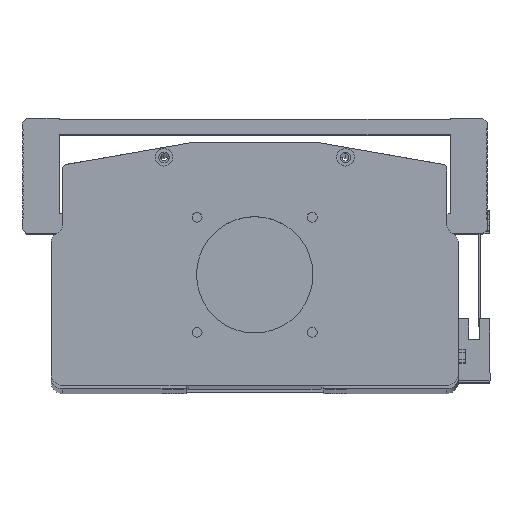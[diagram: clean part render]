
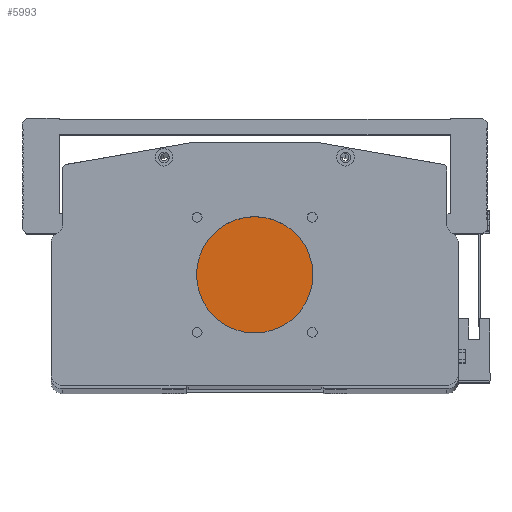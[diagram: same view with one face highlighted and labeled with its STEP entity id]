
A CAD part, top view. The second image highlights one B-rep face of the part: STEP entity #5993.
In plain terms, the highlighted planar face has unit normal (0, 0, 1).
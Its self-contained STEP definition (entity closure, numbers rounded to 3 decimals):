
#578 = CARTESIAN_POINT ( 'NONE',  ( 87.5, 47.5, 0. ) ) ;
#1254 = EDGE_LOOP ( 'NONE', ( #28551, #18235 ) ) ;
#1650 = PLANE ( 'NONE',  #33467 ) ;
#2637 = VERTEX_POINT ( 'NONE', #7461 ) ;
#3279 = DIRECTION ( 'NONE',  ( 1., 0., 0. ) ) ;
#3553 = AXIS2_PLACEMENT_3D ( 'NONE', #578, #19205, #3279 ) ;
#5993 = ADVANCED_FACE ( 'NONE', ( #31549 ), #1650, .T. ) ;
#7461 = CARTESIAN_POINT ( 'NONE',  ( 62.5, 47.5, 0. ) ) ;
#9505 = CARTESIAN_POINT ( 'NONE',  ( 0., 0., 0. ) ) ;
#14817 = DIRECTION ( 'NONE',  ( 0., 0., 1. ) ) ;
#15080 = DIRECTION ( 'NONE',  ( 1., 0., 0. ) ) ;
#18235 = ORIENTED_EDGE ( 'NONE', *, *, #30013, .T. ) ;
#19205 = DIRECTION ( 'NONE',  ( 0., 0., 1. ) ) ;
#21363 = AXIS2_PLACEMENT_3D ( 'NONE', #30756, #14817, #33440 ) ;
#21898 = VERTEX_POINT ( 'NONE', #24252 ) ;
#24252 = CARTESIAN_POINT ( 'NONE',  ( 112.5, 47.5, 0. ) ) ;
#24805 = CIRCLE ( 'NONE', #21363, 25. ) ;
#28551 = ORIENTED_EDGE ( 'NONE', *, *, #30073, .T. ) ;
#30013 = EDGE_CURVE ( 'NONE', #21898, #2637, #33556, .T. ) ;
#30073 = EDGE_CURVE ( 'NONE', #2637, #21898, #24805, .T. ) ;
#30756 = CARTESIAN_POINT ( 'NONE',  ( 87.5, 47.5, 0. ) ) ;
#31017 = DIRECTION ( 'NONE',  ( 0., 0., 1. ) ) ;
#31549 = FACE_OUTER_BOUND ( 'NONE', #1254, .T. ) ;
#33440 = DIRECTION ( 'NONE',  ( 1., 0., 0. ) ) ;
#33467 = AXIS2_PLACEMENT_3D ( 'NONE', #9505, #31017, #15080 ) ;
#33556 = CIRCLE ( 'NONE', #3553, 25. ) ;
